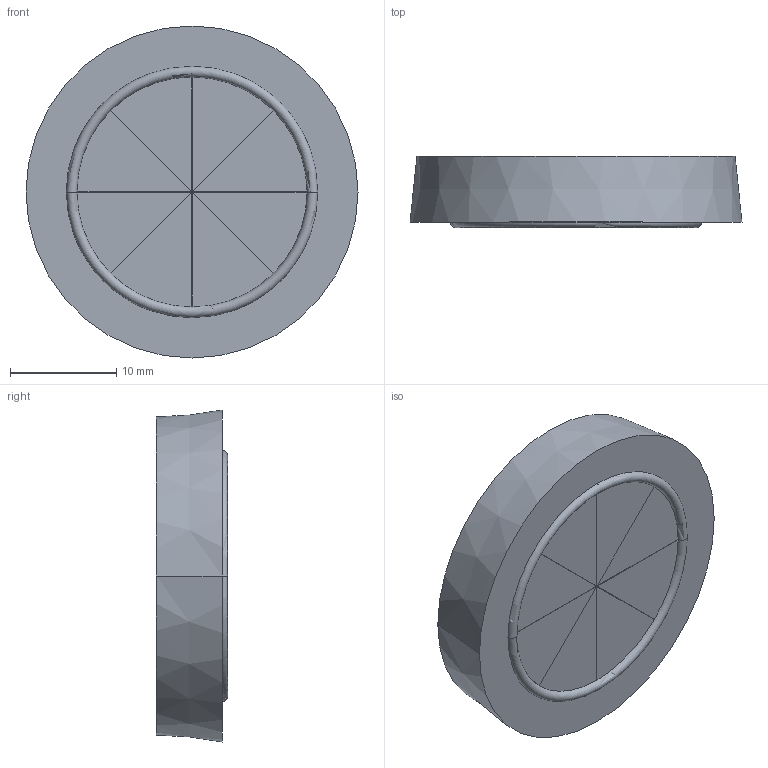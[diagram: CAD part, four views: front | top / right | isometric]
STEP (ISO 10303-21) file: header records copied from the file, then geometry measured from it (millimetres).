
FILE_DESCRIPTION(('Creo Elements/Direct Modeling STEP Export'),'2;1');
FILE_NAME('20061129_QCM-8C.stp','2013-03-29T11:00:54',(''),(''),'Creo Elements/Direct Modeling STEP processor for AP214 (Solid Model)','Creo Elements/Direct Modeling 18.1B 29-Sep-2012 (C) Parametric Technology GmbH','');
FILE_SCHEMA(('AUTOMOTIVE_DESIGN { 1 0 10303 214 1 1 1 1 }'));
Length unit declared in the file: millimetre
Products named in the file (1): QCM-8C
Bounding box: 31.3 x 6.7 x 31.3 mm (x, y, z)
Volume: 1529.1 mm3; surface area: 2750.8 mm2
Topology: 1 solids, 1 shells, 81 faces, 178 edges, 100 vertices
Faces by surface type: plane 47, torus 14, cylinder 12, cone 8
Entity records: 1960 total; most frequent: ORIENTED_EDGE 360, DIRECTION 330, CARTESIAN_POINT 306, EDGE_CURVE 178, AXIS2_PLACEMENT_3D 124, VERTEX_POINT 100, EDGE_LOOP 84, VECTOR 82
